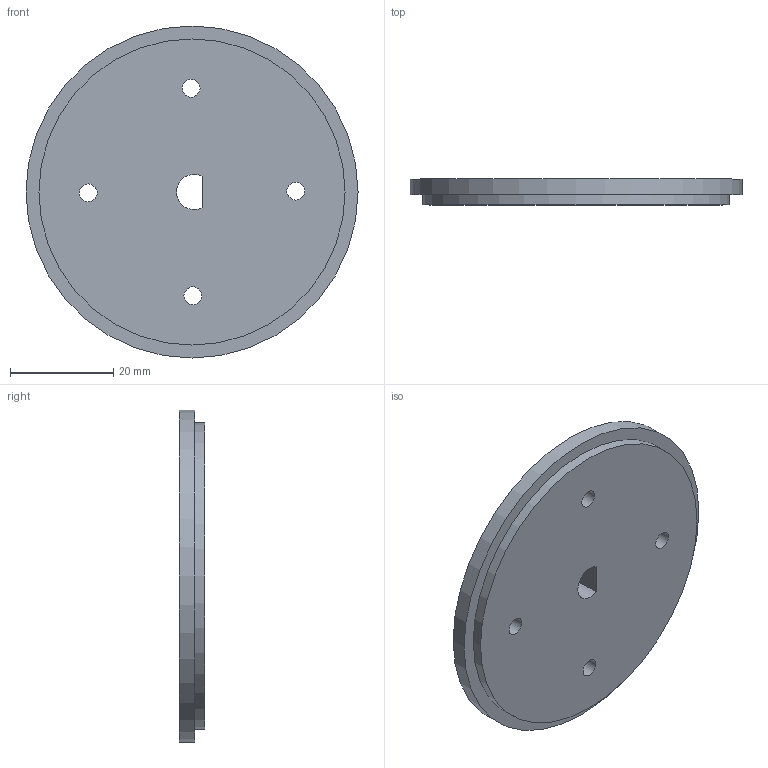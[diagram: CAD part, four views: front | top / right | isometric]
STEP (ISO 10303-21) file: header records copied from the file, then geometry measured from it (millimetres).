
FILE_DESCRIPTION(/* description */ (''),/* implementation_level */ '2;1');
FILE_NAME(/* name */ 'EncoderSide OuterCoupler.step',/* time_stamp */ '2024-08-31T16:24:01-04:00',/* author */ (''),/* organization */ (''),/* preprocessor_version */ 'ST-DEVELOPER v20',/* originating_system */ 'Autodesk Translation Framework v13.14.0.145',/* authorisation */ '');
FILE_SCHEMA (('AUTOMOTIVE_DESIGN { 1 0 10303 214 3 1 1 }'));
Length unit declared in the file: millimetre
Products named in the file (1): EncoderSide_OuterCoupler REPRINT
Bounding box: 64.25 x 5 x 64.25 mm (x, y, z)
Volume: 14840.7 mm3; surface area: 7621.3 mm2
Topology: 1 solids, 1 shells, 15 faces, 32 edges, 20 vertices
Faces by surface type: cylinder 7, plane 4, cone 4
Full cylindrical faces by diameter (mm): 3.454 x4, 59.25 x1, 64.25 x1
Entity records: 465 total; most frequent: DIRECTION 82, CARTESIAN_POINT 68, ORIENTED_EDGE 64, AXIS2_PLACEMENT_3D 34, EDGE_CURVE 32, EDGE_LOOP 26, VERTEX_POINT 20, CIRCLE 18
